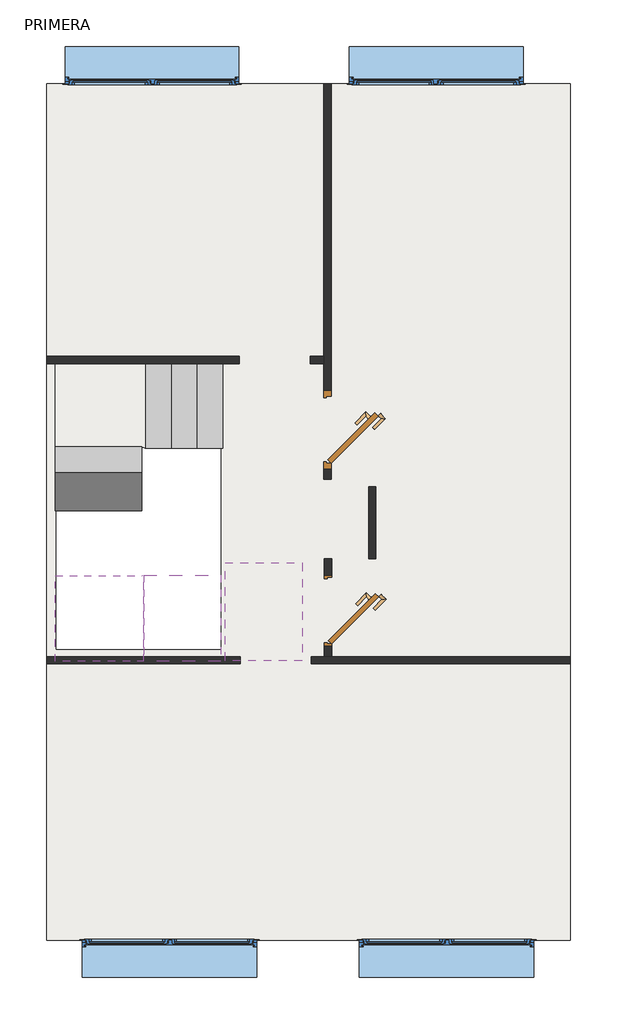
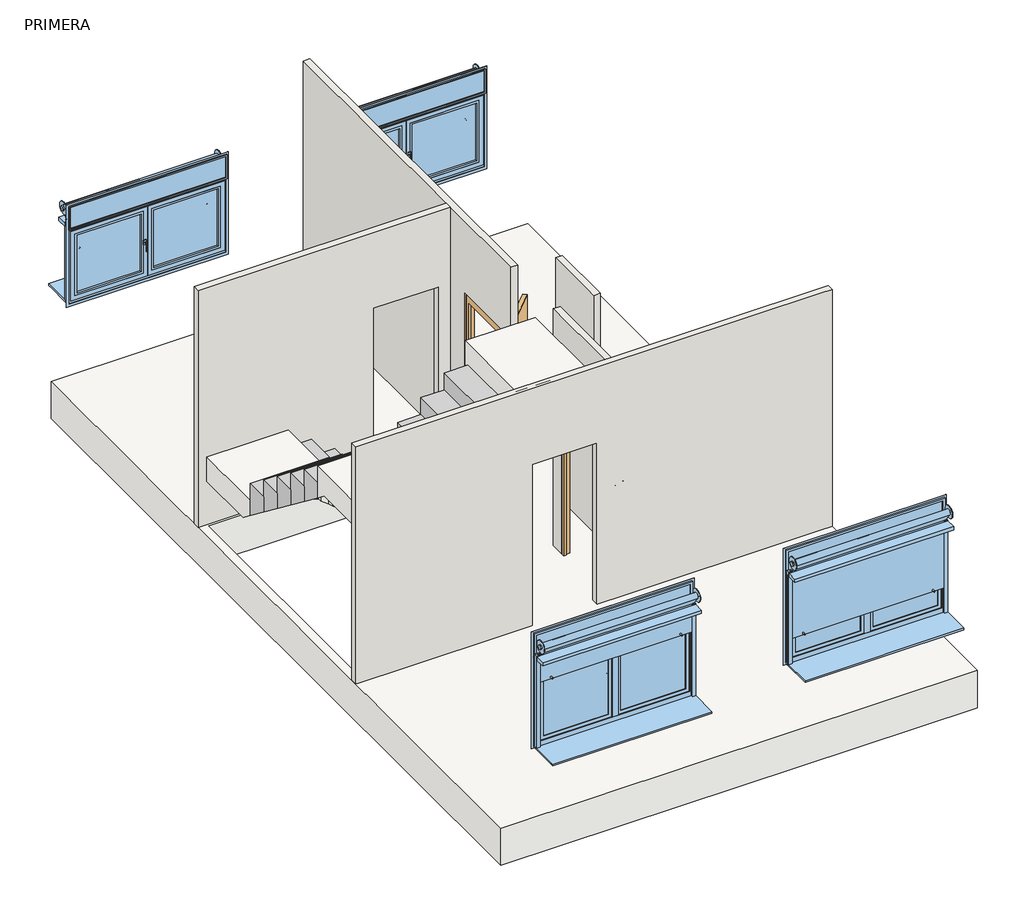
# One storey: 5 walls, 4 slabs, 4 windows, 3 stair flights, 2 doors.
"""IFC4 building model written with IfcOpenShell, lengths in millimetres."""

from ifc_helpers import new_model, si_unit, frame, origin, place, context, project, spatial, polyline, outline, extrude, faceted_brep, transform, mapped, element, save
from components import door_72_5_x_203_cm_4a5d1edf, window_7e7f52a2, window_e1a544ef, window_bd042ff0, window_6fa71baf

model = new_model("IFC4")

# Units and contexts
model_context = context("Model", 3, world=origin())
ifc_project = project(units=[si_unit("LENGTHUNIT", "METRE", prefix="MILLI")], contexts=[model_context])

# Site, building, storey
site = spatial("IfcSite", under=ifc_project)
building = spatial("IfcBuilding", under=site)
storey = spatial("IfcBuildingStorey", under=building, Name="PRIMERA", Elevation=7000.0)

# Doors
placement = place(None, origin())
door_72_5_x_203_cm_shape = door_72_5_x_203_cm_4a5d1edf(model_context)
element("IfcDoor", 1, ObjectType="Puerta abatible ciega con ventilación : 72.5 x 203 cm", at=placement, inside=storey, context=model_context, shape_type="MappedRepresentation", body=[
    mapped(door_72_5_x_203_cm_shape, transform((-3903.6811043, -10282.9701634, 7000.0), x_axis=(0.0, 1.0, 0.0), y_axis=(-1.0, 0.0, 0.0), z_axis=(0.0, 0.0, 1.0))),
])
element("IfcDoor", 2, ObjectType="Puerta abatible ciega con ventilación : 72.5 x 203 cm", at=placement, inside=storey, context=model_context, shape_type="MappedRepresentation", body=[
    mapped(door_72_5_x_203_cm_shape, transform((-3897.4530766, -12251.2017233, 7000.0), x_axis=(0.0, 1.0, 0.0), y_axis=(-1.0, 0.0, 0.0), z_axis=(0.0, 0.0, 1.0))),
])

# Slabs
element("IfcSlab", 3, ObjectType="Grosor 300 mm", at=placement, inside=storey, context=model_context, shape_type="Brep", body=[
    faceted_brep([(-5922.9130424, -11869.9758253, 9142.8571429), (-6862.9130424, -11869.9758253, 9142.8571429), (-6862.9130424, -12004.7874944, 9142.8571429), (-6862.9130424, -12803.734164, 9142.8571429), (-6048.1013733, -12803.734164, 9142.8571429), (-5902.9130424, -12803.734164, 9142.8571429), (-5902.9130424, -11864.9758253, 9142.8571429), (-5922.9130424, -11869.9758253, 8938.664539), (-5922.9130424, -11869.9758253, 8928.5714286), (-5922.9130424, -11869.9758253, 8739.6849471), (-6862.9130424, -11869.9758253, 8739.6849471), (-6862.9130424, -11869.9758253, 8928.5714286), (-6862.9130424, -12004.7874944, 8842.8571429), (-6862.9130424, -12803.734164, 8842.8571429), (-6048.1013733, -12803.734164, 8842.8571429), (-5902.9130424, -12803.734164, 8953.9706614), (-5902.9130424, -11864.9758253, 8953.9706614), (-6462.1597187, -12004.7874944, 8842.8571429), (-6048.1013733, -12004.7874944, 8842.8571429), (-5922.9130424, -12004.7874944, 8842.8571429), (-5922.9130424, -12004.7874944, 8938.664539)], [[[0, 1, 2, 3, 4, 5, 6]], [[1, 0, 7, 8, 9, 10, 11]], [[1, 11, 10, 12, 13, 3, 2]], [[3, 13, 14, 15, 5, 4]], [[6, 5, 15, 16]], [[0, 6, 16, 7]], [[12, 17, 18, 14, 13]], [[19, 18, 17, 12, 10, 9]], [[18, 19, 20]], [[20, 19, 9, 8, 7]], [[14, 18, 20, 7, 16, 15]]]),
])
element("IfcSlab", 4, ObjectType="Grosor 300 mm", at=placement, inside=storey, context=model_context, shape_type="Brep", body=[
    faceted_brep([(-5884.4147176, -10485.7372309, 7857.1428571), (-5884.4147176, -9554.9701632, 7857.1428571), (-6019.2263867, -9554.9701632, 7857.1428571), (-6862.9130424, -9554.9701632, 7857.1428571), (-6862.9130424, -10324.7874944, 7857.1428571), (-6862.9130424, -10469.9758253, 7857.1428571), (-5922.9130424, -10469.9758253, 7857.1428571), (-6862.9130424, -9554.9701632, 7557.1428571), (-6862.9130424, -10324.7874944, 7557.1428571), (-6862.9130424, -10469.9758253, 7668.2563757), (-5922.9130424, -10469.9758253, 7483.4336651), (-5884.4147176, -10485.7372309, 7453.9706614), (-5884.4147176, -9554.9701632, 7453.9706614), (-5884.4147176, -9554.9701632, 7642.8571429), (-6019.2263867, -9554.9701632, 7557.1428571), (-6019.2263867, -10469.9758253, 7668.2563757), (-6019.2263867, -10469.9758253, 7557.1428571), (-6019.2263867, -10430.5446634, 7557.1428571), (-6277.5455974, -10324.7874944, 7557.1428571), (-6019.2263867, -10324.7874944, 7557.1428571), (-6019.2263867, -10430.5446634, 7638.0794661)], [[[0, 1, 2, 3, 4, 5, 6]], [[3, 7, 8, 9, 5, 4]], [[0, 6, 10, 11]], [[1, 0, 11, 12, 13]], [[1, 13, 12, 14, 7, 3, 2]], [[6, 5, 9, 15, 16, 10]], [[17, 18, 8, 7, 14, 19]], [[18, 17, 20]], [[19, 14, 12, 11, 10, 16, 17]], [[20, 17, 16, 15]], [[8, 18, 20, 15, 9]]]),
])
element("IfcSlab", 5, ObjectType="Grosor 300 mm", at=placement, inside=storey, context=model_context, shape_type="SweptSolid", body=[
    extrude(outline(polyline([(-4178.9609461, -11732.7974399), (-4178.9609461, -12795.2974399), (-5017.4530766, -12795.2974399), (-5017.4530766, -11732.7974399), (-4178.9609461, -11732.7974399)])), frame((0.0, 0.0, 9700.0), z_axis=(0.0, 0.0, 1.0), x_axis=(1.0, 0.0, 0.0)), (0.0, 0.0, 1.0), 300.0),
])
element("IfcSlab", 6, ObjectType="Forjado", at=placement, inside=storey, context=model_context, shape_type="SweptSolid", body=[
    extrude(outline(polyline([(-1259.1530766, -6516.7945269), (-1259.1530766, -15838.1457931), (-6960.2380085, -15838.1457931), (-6960.2380085, -6516.7945269), (-1259.1530766, -6516.7945269)]), holes=[polyline([(-5064.0917474, -9595.4701634), (-6853.4380085, -9595.4701634), (-6853.4380085, -12668.734164), (-5064.0917474, -12668.734164), (-5064.0917474, -9595.4701634)])]), frame((0.0, 0.0, 6530.0), z_axis=(0.0, 0.0, 1.0), x_axis=(1.0, 0.0, 0.0)), (0.0, 0.0, 1.0), 470.0),
])

# Stair flights
element("IfcStairFlight", 7, ObjectType="Profundidad estructural 150 mm", at=placement, inside=storey, context=model_context, shape_type="Brep", body=[
    faceted_brep([(-5324.4147176, -10485.7372309, 7214.2857143), (-5044.4147176, -10485.7372309, 7214.2857143), (-5044.4147176, -9554.9701632, 7214.2857143), (-5324.4147176, -9554.9701632, 7214.2857143), (-5324.4147176, -10485.7372309, 7025.3992328), (-5291.2263867, -10485.7372309, 7000.0), (-5044.4147176, -10485.7372309, 7000.0), (-5044.4147176, -9554.9701632, 7000.0), (-5291.2263867, -9554.9701632, 7000.0), (-5324.4147176, -9554.9701632, 7025.3992328), (-5604.4147176, -10485.7372309, 7428.5714286), (-5324.4147176, -10485.7372309, 7428.5714286), (-5324.4147176, -9554.9701632, 7428.5714286), (-5604.4147176, -9554.9701632, 7428.5714286), (-5604.4147176, -10485.7372309, 7239.6849471), (-5604.4147176, -9554.9701632, 7239.6849471), (-5884.4147176, -10485.7372309, 7642.8571429), (-5604.4147176, -10485.7372309, 7642.8571429), (-5604.4147176, -9554.9701632, 7642.8571429), (-5884.4147176, -9554.9701632, 7642.8571429), (-5884.4147176, -10485.7372309, 7453.9706614), (-5884.4147176, -9554.9701632, 7453.9706614)], [[[0, 1, 2, 3]], [[1, 0, 4, 5, 6]], [[2, 1, 6, 7]], [[3, 2, 7, 8, 9]], [[10, 11, 12, 13]], [[11, 10, 14, 4, 0]], [[0, 3, 12, 11]], [[13, 12, 3, 9, 15]], [[16, 17, 18, 19]], [[17, 16, 20, 14, 10]], [[10, 13, 18, 17]], [[19, 18, 13, 15, 21]], [[16, 19, 21, 20]], [[7, 6, 5, 8]], [[8, 5, 4, 14, 20, 21, 15, 9]]]),
])
element("IfcStairFlight", 8, ObjectType="Profundidad estructural 150 mm", at=placement, inside=storey, context=model_context, shape_type="Brep", body=[
    faceted_brep([(-5922.9130424, -10749.9758253, 8071.4285714), (-5922.9130424, -10469.9758253, 8071.4285714), (-6862.9130424, -10469.9758253, 8071.4285714), (-6862.9130424, -10749.9758253, 8071.4285714), (-5922.9130424, -10749.9758253, 7882.54209), (-5922.9130424, -10469.9758253, 7668.2563757), (-6019.2263867, -10469.9758253, 7668.2563757), (-6862.9130424, -10469.9758253, 7668.2563757), (-6862.9130424, -10469.9758253, 7857.1428571), (-6862.9130424, -10749.9758253, 7882.54209), (-5922.9130424, -11029.9758253, 8285.7142857), (-5922.9130424, -10749.9758253, 8285.7142857), (-6862.9130424, -10749.9758253, 8285.7142857), (-6862.9130424, -11029.9758253, 8285.7142857), (-5922.9130424, -11029.9758253, 8096.8278043), (-6862.9130424, -11029.9758253, 8096.8278043), (-5922.9130424, -11309.9758253, 8500.0), (-5922.9130424, -11029.9758253, 8500.0), (-6862.9130424, -11029.9758253, 8500.0), (-6862.9130424, -11309.9758253, 8500.0), (-5922.9130424, -11309.9758253, 8311.1135186), (-6862.9130424, -11309.9758253, 8311.1135186), (-5922.9130424, -11589.9758253, 8714.2857143), (-5922.9130424, -11309.9758253, 8714.2857143), (-6862.9130424, -11309.9758253, 8714.2857143), (-6862.9130424, -11589.9758253, 8714.2857143), (-5922.9130424, -11589.9758253, 8525.3992328), (-6862.9130424, -11589.9758253, 8525.3992328), (-5922.9130424, -11869.9758253, 8928.5714286), (-5922.9130424, -11589.9758253, 8928.5714286), (-6862.9130424, -11589.9758253, 8928.5714286), (-6862.9130424, -11869.9758253, 8928.5714286), (-5922.9130424, -11869.9758253, 8739.6849471), (-6862.9130424, -11869.9758253, 8739.6849471)], [[[0, 1, 2, 3]], [[1, 0, 4, 5]], [[2, 1, 5, 6, 7, 8]], [[3, 2, 8, 7, 9]], [[10, 11, 12, 13]], [[11, 10, 14, 4, 0]], [[0, 3, 12, 11]], [[13, 12, 3, 9, 15]], [[16, 17, 18, 19]], [[17, 16, 20, 14, 10]], [[10, 13, 18, 17]], [[19, 18, 13, 15, 21]], [[22, 23, 24, 25]], [[23, 22, 26, 20, 16]], [[16, 19, 24, 23]], [[25, 24, 19, 21, 27]], [[28, 29, 30, 31]], [[29, 28, 32, 26, 22]], [[22, 25, 30, 29]], [[31, 30, 25, 27, 33]], [[28, 31, 33, 32]], [[5, 4, 14, 20, 26, 32, 33, 27, 21, 15, 9, 7, 6]]]),
])
element("IfcStairFlight", 9, ObjectType="Profundidad estructural 150 mm", at=placement, inside=storey, context=model_context, shape_type="Brep", body=[
    faceted_brep([(-5622.9130424, -11864.9758253, 9357.1428571), (-5902.9130424, -11864.9758253, 9357.1428571), (-5902.9130424, -12803.734164, 9357.1428571), (-5622.9130424, -12803.734164, 9357.1428571), (-5622.9130424, -11864.9758253, 9168.2563757), (-5902.9130424, -11864.9758253, 8953.9706614), (-5902.9130424, -12803.734164, 8953.9706614), (-5902.9130424, -12803.734164, 9142.8571429), (-5622.9130424, -12803.734164, 9168.2563757), (-5342.9130424, -11864.9758253, 9571.4285714), (-5622.9130424, -11864.9758253, 9571.4285714), (-5622.9130424, -12803.734164, 9571.4285714), (-5342.9130424, -12803.734164, 9571.4285714), (-5342.9130424, -11864.9758253, 9382.54209), (-5342.9130424, -12803.734164, 9382.54209), (-5062.9130424, -11864.9758253, 9785.7142857), (-5342.9130424, -11864.9758253, 9785.7142857), (-5342.9130424, -12803.734164, 9785.7142857), (-5062.9130424, -12803.734164, 9785.7142857), (-5062.9130424, -11864.9758253, 9596.8278043), (-5062.9130424, -12803.734164, 9596.8278043)], [[[0, 1, 2, 3]], [[1, 0, 4, 5]], [[2, 1, 5, 6, 7]], [[3, 2, 7, 6, 8]], [[9, 10, 11, 12]], [[10, 9, 13, 4, 0]], [[11, 10, 0, 3]], [[12, 11, 3, 8, 14]], [[15, 16, 17, 18]], [[16, 15, 19, 13, 9]], [[17, 16, 9, 12]], [[18, 17, 12, 14, 20]], [[15, 18, 20, 19]], [[5, 4, 13, 19, 20, 14, 8, 6]]]),
])

# Walls
element("IfcWall", 10, ObjectType="Tabique cartón-yeso", at=placement, inside=storey, context=model_context, shape_type="Brep", body=[
    faceted_brep([(-3943.6811043, -9562.9701634, 10000.0), (-6960.2380085, -9562.9701634, 10000.0), (-6960.2380085, -9562.9701634, 7000.0), (-4862.8701753, -9562.9701634, 7000.0), (-4862.8701753, -9562.9701634, 9040.0), (-4089.4530766, -9562.9701634, 9040.0), (-4089.4530766, -9562.9701634, 7000.0), (-3943.6811043, -9562.9701634, 7000.0), (-6960.2380085, -9482.9701634, 10000.0), (-6909.4740076, -9482.9701634, 10000.0), (-3943.6811043, -9482.9701634, 10000.0), (-3943.6811043, -9482.9701634, 7000.0), (-4089.4530766, -9482.9701634, 7000.0), (-4089.4530766, -9482.9701634, 9040.0), (-4862.8701753, -9482.9701634, 9040.0), (-4862.8701753, -9482.9701634, 7000.0), (-6909.4740076, -9482.9701634, 7000.0), (-6960.2380085, -9482.9701634, 7000.0), (-6960.2380085, -9520.2061626, 7000.0)], [[[0, 1, 2, 3, 4, 5, 6, 7]], [[8, 9, 10, 11, 12, 13, 14, 15, 16, 17]], [[11, 7, 6, 12]], [[2, 18, 17, 16, 15, 3]], [[1, 0, 10, 9, 8]], [[5, 13, 12, 6]], [[14, 4, 3, 15]], [[13, 5, 4, 14]], [[0, 7, 11, 10]], [[2, 1, 8, 17, 18]]]),
])
element("IfcWall", 11, ObjectType="Tabique cartón-yeso", at=placement, inside=storey, context=model_context, shape_type="Brep", body=[
    faceted_brep([(-6960.2380085, -12750.9701634, 10000.0), (-3937.4530766, -12750.9701634, 10000.0), (-3857.4530766, -12750.9701634, 10000.0), (-1259.1530766, -12750.9701634, 10000.0), (-1259.1530766, -12750.9701634, 7000.0), (-3857.4530766, -12750.9701634, 7000.0), (-3937.4530766, -12750.9701634, 7000.0), (-4076.9530766, -12750.9701634, 7000.0), (-4076.9530766, -12750.9701634, 9040.0), (-4850.3701753, -12750.9701634, 9040.0), (-4850.3701753, -12750.9701634, 7000.0), (-6960.2380085, -12750.9701634, 7000.0), (-1259.1530766, -12830.9701634, 10000.0), (-1359.1530766, -12830.9701634, 10000.0), (-6909.4740076, -12830.9701634, 10000.0), (-6960.2380085, -12830.9701634, 10000.0), (-6960.2380085, -12830.9701634, 7000.0), (-6909.4740076, -12830.9701634, 7000.0), (-4850.3701753, -12830.9701634, 7000.0), (-4850.3701753, -12830.9701634, 9040.0), (-4076.9530766, -12830.9701634, 9040.0), (-4076.9530766, -12830.9701634, 7000.0), (-1359.1530766, -12830.9701634, 7000.0), (-1259.1530766, -12830.9701634, 7000.0), (-6960.2380085, -12829.734164, 7000.0), (-1259.1530766, -12829.734164, 7000.0)], [[[0, 1, 2, 3, 4, 5, 6, 7, 8, 9, 10, 11]], [[12, 13, 14, 15, 16, 17, 18, 19, 20, 21, 22, 23]], [[16, 24, 11, 10, 18, 17]], [[4, 25, 23, 22, 21, 7, 6, 5]], [[3, 2, 1, 0, 15, 14, 13, 12]], [[20, 8, 7, 21]], [[9, 19, 18, 10]], [[8, 20, 19, 9]], [[0, 11, 24, 16, 15]], [[4, 3, 12, 23, 25]]]),
])
element("IfcWall", 12, ObjectType="Tabique cartón-yeso", at=placement, inside=storey, context=model_context, shape_type="Brep", body=[
    faceted_brep([(-3376.0472459, -11687.9332832, 7000.0), (-3376.0472459, -10900.4118523, 7000.0), (-3376.0472459, -10900.4118523, 10000.0), (-3376.0472459, -11687.9332832, 10000.0), (-3456.0472459, -11687.9332832, 7000.0), (-3456.0472459, -11687.9332832, 10000.0), (-3456.0472459, -10900.4118523, 10000.0), (-3456.0472459, -10900.4118523, 7000.0), (-3377.5472459, -11687.9332832, 7000.0)], [[[0, 1, 2, 3]], [[4, 5, 6, 7]], [[1, 0, 8, 4, 7]], [[3, 2, 6, 5]], [[2, 1, 7, 6]], [[0, 3, 5, 4, 8]]]),
])
element("IfcWall", 13, ObjectType="Tabique cartón-yeso", at=placement, inside=storey, context=model_context, shape_type="Brep", body=[
    faceted_brep([(-3857.4530766, -11687.9332832, 10000.0), (-3857.4530766, -11767.9332832, 10000.0), (-3857.4530766, -12750.9701634, 10000.0), (-3857.4530766, -12750.9701634, 7000.0), (-3857.4530766, -12638.7017233, 7000.0), (-3857.4530766, -12638.7017233, 9090.0), (-3857.4530766, -11865.2846246, 9090.0), (-3857.4530766, -11865.2846246, 7000.0), (-3857.4530766, -11767.9332832, 7000.0), (-3857.4530766, -11687.9332832, 7000.0), (-3937.4530766, -12750.9701634, 10000.0), (-3937.4530766, -11687.9332832, 10000.0), (-3937.4530766, -11687.9332832, 7000.0), (-3937.4530766, -11865.2846246, 7000.0), (-3937.4530766, -11865.2846246, 9090.0), (-3937.4530766, -12638.7017233, 9090.0), (-3937.4530766, -12638.7017233, 7000.0), (-3937.4530766, -12750.9701634, 7000.0)], [[[0, 1, 2, 3, 4, 5, 6, 7, 8, 9]], [[10, 11, 12, 13, 14, 15, 16, 17]], [[3, 17, 16, 4]], [[12, 9, 8, 7, 13]], [[2, 1, 0, 11, 10]], [[3, 2, 10, 17]], [[15, 5, 4, 16]], [[6, 14, 13, 7]], [[5, 15, 14, 6]], [[0, 9, 12, 11]]]),
])
element("IfcWall", 14, ObjectType="Tabique cartón-yeso", at=placement, inside=storey, context=model_context, shape_type="Brep", body=[
    faceted_brep([(-3863.6811043, -6516.7945269, 10000.0), (-3863.6811043, -10820.4118523, 10000.0), (-3863.6811043, -10820.4118523, 7000.0), (-3863.6811043, -10670.4701634, 7000.0), (-3863.6811043, -10670.4701634, 9090.0), (-3863.6811043, -9897.0530647, 9090.0), (-3863.6811043, -9897.0530647, 7000.0), (-3863.6811043, -6516.7945269, 7000.0), (-3943.6811043, -10820.4118523, 10000.0), (-3943.6811043, -9562.9701634, 10000.0), (-3943.6811043, -9482.9701634, 10000.0), (-3943.6811043, -6516.7945269, 10000.0), (-3943.6811043, -6516.7945269, 7000.0), (-3943.6811043, -9482.9701634, 7000.0), (-3943.6811043, -9562.9701634, 7000.0), (-3943.6811043, -9897.0530647, 7000.0), (-3943.6811043, -9897.0530647, 9090.0), (-3943.6811043, -10670.4701634, 9090.0), (-3943.6811043, -10670.4701634, 7000.0), (-3943.6811043, -10820.4118523, 7000.0)], [[[0, 1, 2, 3, 4, 5, 6, 7]], [[8, 9, 10, 11, 12, 13, 14, 15, 16, 17, 18, 19]], [[12, 7, 6, 15, 14, 13]], [[2, 19, 18, 3]], [[1, 0, 11, 10, 9, 8]], [[17, 4, 3, 18]], [[5, 16, 15, 6]], [[4, 17, 16, 5]], [[0, 7, 12, 11]], [[2, 1, 8, 19]]]),
])

# Windows
window_shape = window_7e7f52a2(model_context)
element("IfcWindow", 15, ObjectType="Ventana monoblock practicable, 2 hojas sin cajon para poner emparchado : CA-05. COCINA - DORMITORIOS NORTE", at=placement, inside=storey, context=model_context, shape_type="MappedRepresentation", body=[
    mapped(window_shape, transform((-5811.1660363, -6389.2945269, 7000.0), x_axis=(-1.0, 0.0, 0.0), y_axis=(0.0, -1.0, 0.0), z_axis=(0.0, 0.0, 1.0))),
])
window_2_shape = window_e1a544ef(model_context)
element("IfcWindow", 16, ObjectType="Ventana monoblock practicable, 2 hojas sin cajon para poner emparchado : CA-05. COCINA - DORMITORIOS NORTE", at=placement, inside=storey, context=model_context, shape_type="MappedRepresentation", body=[
    mapped(window_2_shape, transform((-2718.6811043, -6389.2945269, 7000.0), x_axis=(1.0, 0.0, 0.0), y_axis=(0.0, 1.0, 0.0), z_axis=(0.0, 0.0, 1.0))),
])
window_3_shape = window_bd042ff0(model_context)
element("IfcWindow", 17, ObjectType="Ventana monoblock practicable, 2 hojas sin cajon para poner emparchado : CA-02. SALÓN - DORMITORIO SUR", at=placement, inside=storey, context=model_context, shape_type="MappedRepresentation", body=[
    mapped(window_3_shape, transform((-5622.7088717, -15965.6457931, 7000.0), x_axis=(-1.0, 0.0, 0.0), y_axis=(0.0, -1.0, 0.0), z_axis=(0.0, 0.0, 1.0))),
])
window_4_shape = window_6fa71baf(model_context)
element("IfcWindow", 18, ObjectType="Ventana monoblock practicable, 2 hojas sin cajon para poner emparchado : CA-02. SALÓN - DORMITORIO SUR", at=placement, inside=storey, context=model_context, shape_type="MappedRepresentation", body=[
    mapped(window_4_shape, transform((-2605.2239397, -15965.6457931, 7000.0), x_axis=(-1.0, 0.0, 0.0), y_axis=(0.0, -1.0, 0.0), z_axis=(0.0, 0.0, 1.0))),
])

save(model, "model.ifc")
